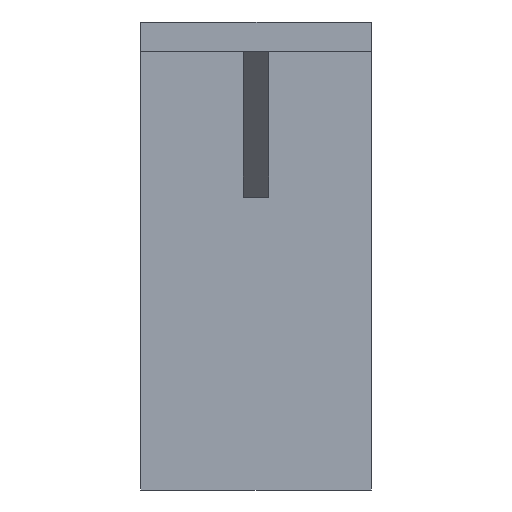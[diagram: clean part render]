
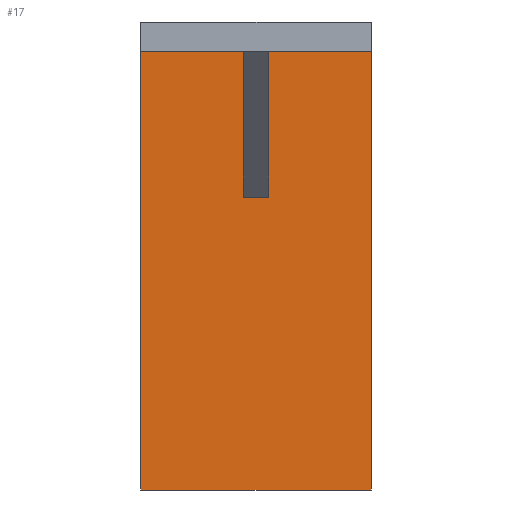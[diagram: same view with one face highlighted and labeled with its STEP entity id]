
A CAD part, left-side view. The second image highlights one B-rep face of the part: STEP entity #17.
In plain terms, the highlighted planar face has unit normal (-1, 0, 0).
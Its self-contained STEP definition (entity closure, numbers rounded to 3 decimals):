
#17 = ADVANCED_FACE('',(#18),#32,.F.);
#18 = FACE_BOUND('',#19,.F.);
#19 = EDGE_LOOP('',(#20,#55,#83,#111,#137,#165,#193,#221));
#20 = ORIENTED_EDGE('',*,*,#21,.F.);
#21 = EDGE_CURVE('',#22,#24,#26,.T.);
#22 = VERTEX_POINT('',#23);
#23 = CARTESIAN_POINT('',(0.,-11.865,0.));
#24 = VERTEX_POINT('',#25);
#25 = CARTESIAN_POINT('',(0.,-11.865,45.1));
#26 = SURFACE_CURVE('',#27,(#31,#43),.PCURVE_S1.);
#27 = LINE('',#28,#29);
#28 = CARTESIAN_POINT('',(0.,-11.865,0.));
#29 = VECTOR('',#30,1.);
#30 = DIRECTION('',(0.,0.,1.));
#31 = PCURVE('',#32,#37);
#32 = PLANE('',#33);
#33 = AXIS2_PLACEMENT_3D('',#34,#35,#36);
#34 = CARTESIAN_POINT('',(0.,-11.865,0.));
#35 = DIRECTION('',(1.,0.,0.));
#36 = DIRECTION('',(0.,0.,1.));
#37 = DEFINITIONAL_REPRESENTATION('',(#38),#42);
#38 = LINE('',#39,#40);
#39 = CARTESIAN_POINT('',(0.,0.));
#40 = VECTOR('',#41,1.);
#41 = DIRECTION('',(1.,0.));
#42 = ( GEOMETRIC_REPRESENTATION_CONTEXT(2) 
PARAMETRIC_REPRESENTATION_CONTEXT() REPRESENTATION_CONTEXT('2D SPACE',''
  ) );
#43 = PCURVE('',#44,#49);
#44 = PLANE('',#45);
#45 = AXIS2_PLACEMENT_3D('',#46,#47,#48);
#46 = CARTESIAN_POINT('',(0.,-11.865,0.));
#47 = DIRECTION('',(0.,1.,0.));
#48 = DIRECTION('',(0.,0.,1.));
#49 = DEFINITIONAL_REPRESENTATION('',(#50),#54);
#50 = LINE('',#51,#52);
#51 = CARTESIAN_POINT('',(0.,0.));
#52 = VECTOR('',#53,1.);
#53 = DIRECTION('',(1.,0.));
#54 = ( GEOMETRIC_REPRESENTATION_CONTEXT(2) 
PARAMETRIC_REPRESENTATION_CONTEXT() REPRESENTATION_CONTEXT('2D SPACE',''
  ) );
#55 = ORIENTED_EDGE('',*,*,#56,.T.);
#56 = EDGE_CURVE('',#22,#57,#59,.T.);
#57 = VERTEX_POINT('',#58);
#58 = CARTESIAN_POINT('',(0.,11.865,0.));
#59 = SURFACE_CURVE('',#60,(#64,#71),.PCURVE_S1.);
#60 = LINE('',#61,#62);
#61 = CARTESIAN_POINT('',(0.,-11.865,0.));
#62 = VECTOR('',#63,1.);
#63 = DIRECTION('',(0.,1.,0.));
#64 = PCURVE('',#32,#65);
#65 = DEFINITIONAL_REPRESENTATION('',(#66),#70);
#66 = LINE('',#67,#68);
#67 = CARTESIAN_POINT('',(0.,0.));
#68 = VECTOR('',#69,1.);
#69 = DIRECTION('',(0.,-1.));
#70 = ( GEOMETRIC_REPRESENTATION_CONTEXT(2) 
PARAMETRIC_REPRESENTATION_CONTEXT() REPRESENTATION_CONTEXT('2D SPACE',''
  ) );
#71 = PCURVE('',#72,#77);
#72 = PLANE('',#73);
#73 = AXIS2_PLACEMENT_3D('',#74,#75,#76);
#74 = CARTESIAN_POINT('',(0.,-11.865,0.));
#75 = DIRECTION('',(0.,0.,1.));
#76 = DIRECTION('',(1.,0.,0.));
#77 = DEFINITIONAL_REPRESENTATION('',(#78),#82);
#78 = LINE('',#79,#80);
#79 = CARTESIAN_POINT('',(0.,0.));
#80 = VECTOR('',#81,1.);
#81 = DIRECTION('',(0.,1.));
#82 = ( GEOMETRIC_REPRESENTATION_CONTEXT(2) 
PARAMETRIC_REPRESENTATION_CONTEXT() REPRESENTATION_CONTEXT('2D SPACE',''
  ) );
#83 = ORIENTED_EDGE('',*,*,#84,.F.);
#84 = EDGE_CURVE('',#85,#57,#87,.T.);
#85 = VERTEX_POINT('',#86);
#86 = CARTESIAN_POINT('',(0.,11.865,45.1));
#87 = SURFACE_CURVE('',#88,(#92,#99),.PCURVE_S1.);
#88 = LINE('',#89,#90);
#89 = CARTESIAN_POINT('',(0.,11.865,48.1));
#90 = VECTOR('',#91,1.);
#91 = DIRECTION('',(0.,0.,-1.));
#92 = PCURVE('',#32,#93);
#93 = DEFINITIONAL_REPRESENTATION('',(#94),#98);
#94 = LINE('',#95,#96);
#95 = CARTESIAN_POINT('',(48.1,-23.73));
#96 = VECTOR('',#97,1.);
#97 = DIRECTION('',(-1.,0.));
#98 = ( GEOMETRIC_REPRESENTATION_CONTEXT(2) 
PARAMETRIC_REPRESENTATION_CONTEXT() REPRESENTATION_CONTEXT('2D SPACE',''
  ) );
#99 = PCURVE('',#100,#105);
#100 = PLANE('',#101);
#101 = AXIS2_PLACEMENT_3D('',#102,#103,#104);
#102 = CARTESIAN_POINT('',(0.,11.865,0.));
#103 = DIRECTION('',(0.,1.,0.));
#104 = DIRECTION('',(0.,0.,1.));
#105 = DEFINITIONAL_REPRESENTATION('',(#106),#110);
#106 = LINE('',#107,#108);
#107 = CARTESIAN_POINT('',(48.1,0.));
#108 = VECTOR('',#109,1.);
#109 = DIRECTION('',(-1.,0.));
#110 = ( GEOMETRIC_REPRESENTATION_CONTEXT(2) 
PARAMETRIC_REPRESENTATION_CONTEXT() REPRESENTATION_CONTEXT('2D SPACE',''
  ) );
#111 = ORIENTED_EDGE('',*,*,#112,.T.);
#112 = EDGE_CURVE('',#85,#113,#115,.T.);
#113 = VERTEX_POINT('',#114);
#114 = CARTESIAN_POINT('',(0.,1.3,45.1));
#115 = SURFACE_CURVE('',#116,(#120,#126),.PCURVE_S1.);
#116 = LINE('',#117,#118);
#117 = CARTESIAN_POINT('',(0.,-11.865,45.1));
#118 = VECTOR('',#119,1.);
#119 = DIRECTION('',(0.,-1.,0.));
#120 = PCURVE('',#32,#121);
#121 = DEFINITIONAL_REPRESENTATION('',(#122),#125);
#122 = B_SPLINE_CURVE_WITH_KNOTS('',1,(#123,#124),.UNSPECIFIED.,.F.,.F.,
  (2,2),(-23.73,0.),.PIECEWISE_BEZIER_KNOTS.);
#123 = CARTESIAN_POINT('',(45.1,-23.73));
#124 = CARTESIAN_POINT('',(45.1,0.));
#125 = ( GEOMETRIC_REPRESENTATION_CONTEXT(2) 
PARAMETRIC_REPRESENTATION_CONTEXT() REPRESENTATION_CONTEXT('2D SPACE',''
  ) );
#126 = PCURVE('',#127,#132);
#127 = PLANE('',#128);
#128 = AXIS2_PLACEMENT_3D('',#129,#130,#131);
#129 = CARTESIAN_POINT('',(-43.4,-11.865,45.1));
#130 = DIRECTION('',(0.,0.,1.));
#131 = DIRECTION('',(1.,0.,0.));
#132 = DEFINITIONAL_REPRESENTATION('',(#133),#136);
#133 = B_SPLINE_CURVE_WITH_KNOTS('',1,(#134,#135),.UNSPECIFIED.,.F.,.F.,
  (2,2),(-23.73,0.),.PIECEWISE_BEZIER_KNOTS.);
#134 = CARTESIAN_POINT('',(43.4,23.73));
#135 = CARTESIAN_POINT('',(43.4,0.));
#136 = ( GEOMETRIC_REPRESENTATION_CONTEXT(2) 
PARAMETRIC_REPRESENTATION_CONTEXT() REPRESENTATION_CONTEXT('2D SPACE',''
  ) );
#137 = ORIENTED_EDGE('',*,*,#138,.F.);
#138 = EDGE_CURVE('',#139,#113,#141,.T.);
#139 = VERTEX_POINT('',#140);
#140 = CARTESIAN_POINT('',(0.,1.3,30.1));
#141 = SURFACE_CURVE('',#142,(#146,#153),.PCURVE_S1.);
#142 = LINE('',#143,#144);
#143 = CARTESIAN_POINT('',(0.,1.3,30.1));
#144 = VECTOR('',#145,1.);
#145 = DIRECTION('',(0.,0.,1.));
#146 = PCURVE('',#32,#147);
#147 = DEFINITIONAL_REPRESENTATION('',(#148),#152);
#148 = LINE('',#149,#150);
#149 = CARTESIAN_POINT('',(30.1,-13.165));
#150 = VECTOR('',#151,1.);
#151 = DIRECTION('',(1.,0.));
#152 = ( GEOMETRIC_REPRESENTATION_CONTEXT(2) 
PARAMETRIC_REPRESENTATION_CONTEXT() REPRESENTATION_CONTEXT('2D SPACE',''
  ) );
#153 = PCURVE('',#154,#159);
#154 = PLANE('',#155);
#155 = AXIS2_PLACEMENT_3D('',#156,#157,#158);
#156 = CARTESIAN_POINT('',(-5.303,1.3,39.797));
#157 = DIRECTION('',(-0.,-1.,-0.));
#158 = DIRECTION('',(0.,0.,-1.));
#159 = DEFINITIONAL_REPRESENTATION('',(#160),#164);
#160 = LINE('',#161,#162);
#161 = CARTESIAN_POINT('',(9.697,5.303));
#162 = VECTOR('',#163,1.);
#163 = DIRECTION('',(-1.,0.));
#164 = ( GEOMETRIC_REPRESENTATION_CONTEXT(2) 
PARAMETRIC_REPRESENTATION_CONTEXT() REPRESENTATION_CONTEXT('2D SPACE',''
  ) );
#165 = ORIENTED_EDGE('',*,*,#166,.F.);
#166 = EDGE_CURVE('',#167,#139,#169,.T.);
#167 = VERTEX_POINT('',#168);
#168 = CARTESIAN_POINT('',(0.,-1.3,30.1));
#169 = SURFACE_CURVE('',#170,(#174,#181),.PCURVE_S1.);
#170 = LINE('',#171,#172);
#171 = CARTESIAN_POINT('',(0.,-1.3,30.1));
#172 = VECTOR('',#173,1.);
#173 = DIRECTION('',(-0.,1.,-0.));
#174 = PCURVE('',#32,#175);
#175 = DEFINITIONAL_REPRESENTATION('',(#176),#180);
#176 = LINE('',#177,#178);
#177 = CARTESIAN_POINT('',(30.1,-10.565));
#178 = VECTOR('',#179,1.);
#179 = DIRECTION('',(0.,-1.));
#180 = ( GEOMETRIC_REPRESENTATION_CONTEXT(2) 
PARAMETRIC_REPRESENTATION_CONTEXT() REPRESENTATION_CONTEXT('2D SPACE',''
  ) );
#181 = PCURVE('',#182,#187);
#182 = PLANE('',#183);
#183 = AXIS2_PLACEMENT_3D('',#184,#185,#186);
#184 = CARTESIAN_POINT('',(-15.,-1.3,45.1));
#185 = DIRECTION('',(-0.707,-0.,-0.707));
#186 = DIRECTION('',(0.707,0.,-0.707));
#187 = DEFINITIONAL_REPRESENTATION('',(#188),#192);
#188 = LINE('',#189,#190);
#189 = CARTESIAN_POINT('',(21.213,0.));
#190 = VECTOR('',#191,1.);
#191 = DIRECTION('',(0.,-1.));
#192 = ( GEOMETRIC_REPRESENTATION_CONTEXT(2) 
PARAMETRIC_REPRESENTATION_CONTEXT() REPRESENTATION_CONTEXT('2D SPACE',''
  ) );
#193 = ORIENTED_EDGE('',*,*,#194,.T.);
#194 = EDGE_CURVE('',#167,#195,#197,.T.);
#195 = VERTEX_POINT('',#196);
#196 = CARTESIAN_POINT('',(0.,-1.3,45.1));
#197 = SURFACE_CURVE('',#198,(#202,#209),.PCURVE_S1.);
#198 = LINE('',#199,#200);
#199 = CARTESIAN_POINT('',(0.,-1.3,30.1));
#200 = VECTOR('',#201,1.);
#201 = DIRECTION('',(0.,0.,1.));
#202 = PCURVE('',#32,#203);
#203 = DEFINITIONAL_REPRESENTATION('',(#204),#208);
#204 = LINE('',#205,#206);
#205 = CARTESIAN_POINT('',(30.1,-10.565));
#206 = VECTOR('',#207,1.);
#207 = DIRECTION('',(1.,0.));
#208 = ( GEOMETRIC_REPRESENTATION_CONTEXT(2) 
PARAMETRIC_REPRESENTATION_CONTEXT() REPRESENTATION_CONTEXT('2D SPACE',''
  ) );
#209 = PCURVE('',#210,#215);
#210 = PLANE('',#211);
#211 = AXIS2_PLACEMENT_3D('',#212,#213,#214);
#212 = CARTESIAN_POINT('',(-5.303,-1.3,39.797));
#213 = DIRECTION('',(-0.,-1.,-0.));
#214 = DIRECTION('',(0.,0.,-1.));
#215 = DEFINITIONAL_REPRESENTATION('',(#216),#220);
#216 = LINE('',#217,#218);
#217 = CARTESIAN_POINT('',(9.697,5.303));
#218 = VECTOR('',#219,1.);
#219 = DIRECTION('',(-1.,0.));
#220 = ( GEOMETRIC_REPRESENTATION_CONTEXT(2) 
PARAMETRIC_REPRESENTATION_CONTEXT() REPRESENTATION_CONTEXT('2D SPACE',''
  ) );
#221 = ORIENTED_EDGE('',*,*,#222,.T.);
#222 = EDGE_CURVE('',#195,#24,#223,.T.);
#223 = SURFACE_CURVE('',#224,(#228,#234),.PCURVE_S1.);
#224 = LINE('',#225,#226);
#225 = CARTESIAN_POINT('',(0.,-11.865,45.1));
#226 = VECTOR('',#227,1.);
#227 = DIRECTION('',(0.,-1.,0.));
#228 = PCURVE('',#32,#229);
#229 = DEFINITIONAL_REPRESENTATION('',(#230),#233);
#230 = B_SPLINE_CURVE_WITH_KNOTS('',1,(#231,#232),.UNSPECIFIED.,.F.,.F.,
  (2,2),(-23.73,0.),.PIECEWISE_BEZIER_KNOTS.);
#231 = CARTESIAN_POINT('',(45.1,-23.73));
#232 = CARTESIAN_POINT('',(45.1,0.));
#233 = ( GEOMETRIC_REPRESENTATION_CONTEXT(2) 
PARAMETRIC_REPRESENTATION_CONTEXT() REPRESENTATION_CONTEXT('2D SPACE',''
  ) );
#234 = PCURVE('',#127,#235);
#235 = DEFINITIONAL_REPRESENTATION('',(#236),#239);
#236 = B_SPLINE_CURVE_WITH_KNOTS('',1,(#237,#238),.UNSPECIFIED.,.F.,.F.,
  (2,2),(-23.73,0.),.PIECEWISE_BEZIER_KNOTS.);
#237 = CARTESIAN_POINT('',(43.4,23.73));
#238 = CARTESIAN_POINT('',(43.4,0.));
#239 = ( GEOMETRIC_REPRESENTATION_CONTEXT(2) 
PARAMETRIC_REPRESENTATION_CONTEXT() REPRESENTATION_CONTEXT('2D SPACE',''
  ) );
